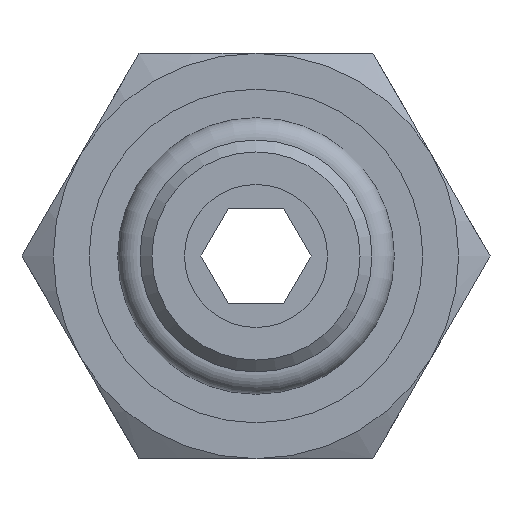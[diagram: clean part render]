
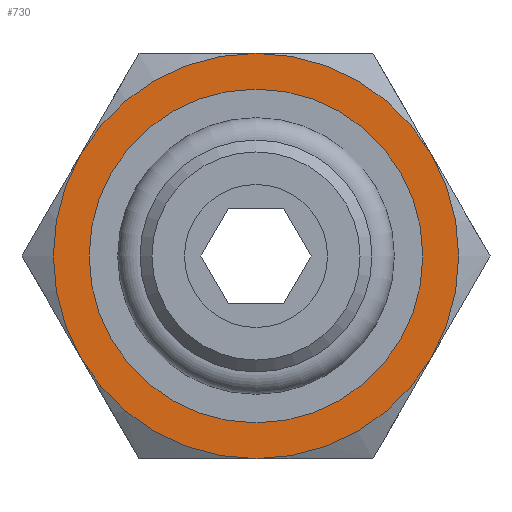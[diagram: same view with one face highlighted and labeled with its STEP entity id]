
A CAD part, front view. The second image highlights one B-rep face of the part: STEP entity #730.
In plain terms, the highlighted planar face has unit normal (0, -1, 0).
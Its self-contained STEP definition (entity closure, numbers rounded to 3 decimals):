
#44=FACE_BOUND('',#249,.T.);
#65=PLANE('',#836);
#198=FACE_OUTER_BOUND('',#248,.T.);
#248=EDGE_LOOP('',(#650,#651,#652,#653,#654,#655));
#249=EDGE_LOOP('',(#656,#657));
#279=CIRCLE('',#787,8.5);
#280=CIRCLE('',#789,8.5);
#281=CIRCLE('',#791,8.5);
#282=CIRCLE('',#793,8.5);
#283=CIRCLE('',#795,8.5);
#284=CIRCLE('',#797,8.5);
#299=CIRCLE('',#837,7.);
#300=CIRCLE('',#838,7.);
#325=VERTEX_POINT('',#1125);
#326=VERTEX_POINT('',#1129);
#328=VERTEX_POINT('',#1136);
#330=VERTEX_POINT('',#1146);
#332=VERTEX_POINT('',#1159);
#334=VERTEX_POINT('',#1169);
#368=VERTEX_POINT('',#1317);
#369=VERTEX_POINT('',#1318);
#402=EDGE_CURVE('',#325,#326,#279,.T.);
#405=EDGE_CURVE('',#328,#325,#280,.T.);
#408=EDGE_CURVE('',#330,#328,#281,.T.);
#410=EDGE_CURVE('',#332,#330,#282,.T.);
#413=EDGE_CURVE('',#334,#332,#283,.T.);
#416=EDGE_CURVE('',#326,#334,#284,.T.);
#471=EDGE_CURVE('',#368,#369,#299,.T.);
#472=EDGE_CURVE('',#369,#368,#300,.T.);
#650=ORIENTED_EDGE('',*,*,#416,.T.);
#651=ORIENTED_EDGE('',*,*,#413,.T.);
#652=ORIENTED_EDGE('',*,*,#410,.T.);
#653=ORIENTED_EDGE('',*,*,#408,.T.);
#654=ORIENTED_EDGE('',*,*,#405,.T.);
#655=ORIENTED_EDGE('',*,*,#402,.T.);
#656=ORIENTED_EDGE('',*,*,#471,.F.);
#657=ORIENTED_EDGE('',*,*,#472,.F.);
#730=ADVANCED_FACE('',(#198,#44),#65,.T.);
#787=AXIS2_PLACEMENT_3D('',#1133,#917,#918);
#789=AXIS2_PLACEMENT_3D('',#1143,#921,#922);
#791=AXIS2_PLACEMENT_3D('',#1153,#925,#926);
#793=AXIS2_PLACEMENT_3D('',#1160,#929,#930);
#795=AXIS2_PLACEMENT_3D('',#1170,#933,#934);
#797=AXIS2_PLACEMENT_3D('',#1179,#937,#938);
#836=AXIS2_PLACEMENT_3D('',#1316,#1042,#1043);
#837=AXIS2_PLACEMENT_3D('',#1319,#1044,#1045);
#838=AXIS2_PLACEMENT_3D('',#1320,#1046,#1047);
#917=DIRECTION('center_axis',(0.,-1.,0.));
#918=DIRECTION('ref_axis',(1.,0.,0.));
#921=DIRECTION('center_axis',(0.,-1.,0.));
#922=DIRECTION('ref_axis',(1.,0.,0.));
#925=DIRECTION('center_axis',(0.,-1.,0.));
#926=DIRECTION('ref_axis',(1.,0.,0.));
#929=DIRECTION('center_axis',(0.,-1.,0.));
#930=DIRECTION('ref_axis',(1.,0.,0.));
#933=DIRECTION('center_axis',(0.,-1.,0.));
#934=DIRECTION('ref_axis',(1.,0.,0.));
#937=DIRECTION('center_axis',(0.,-1.,0.));
#938=DIRECTION('ref_axis',(1.,0.,0.));
#1042=DIRECTION('center_axis',(0.,-1.,0.));
#1043=DIRECTION('ref_axis',(0.,0.,-1.));
#1044=DIRECTION('center_axis',(0.,-1.,0.));
#1045=DIRECTION('ref_axis',(1.,0.,0.));
#1046=DIRECTION('center_axis',(0.,-1.,0.));
#1047=DIRECTION('ref_axis',(1.,0.,0.));
#1125=CARTESIAN_POINT('',(-7.361,7.,-4.25));
#1129=CARTESIAN_POINT('',(0.,7.,-8.5));
#1133=CARTESIAN_POINT('Origin',(0.,7.,0.));
#1136=CARTESIAN_POINT('',(-7.361,7.,4.25));
#1143=CARTESIAN_POINT('Origin',(0.,7.,0.));
#1146=CARTESIAN_POINT('',(0.,7.,8.5));
#1153=CARTESIAN_POINT('Origin',(0.,7.,0.));
#1159=CARTESIAN_POINT('',(7.361,7.,4.25));
#1160=CARTESIAN_POINT('Origin',(0.,7.,0.));
#1169=CARTESIAN_POINT('',(7.361,7.,-4.25));
#1170=CARTESIAN_POINT('Origin',(0.,7.,0.));
#1179=CARTESIAN_POINT('Origin',(0.,7.,0.));
#1316=CARTESIAN_POINT('Origin',(7.,7.,0.));
#1317=CARTESIAN_POINT('',(7.,7.,0.));
#1318=CARTESIAN_POINT('',(-7.,7.,0.));
#1319=CARTESIAN_POINT('Origin',(0.,7.,0.));
#1320=CARTESIAN_POINT('Origin',(0.,7.,0.));
